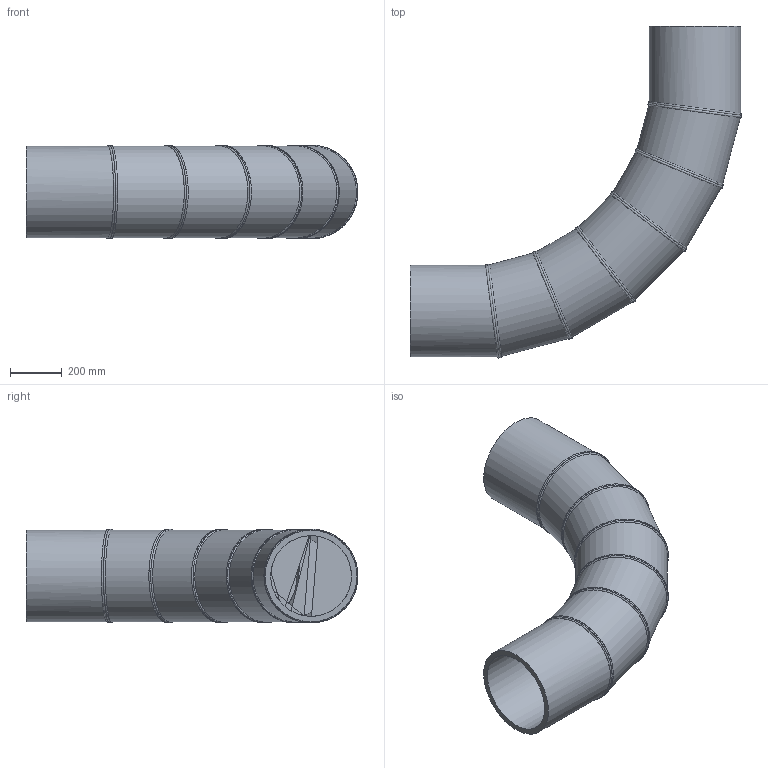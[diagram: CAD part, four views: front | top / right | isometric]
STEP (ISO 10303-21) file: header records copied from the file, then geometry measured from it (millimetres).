
FILE_DESCRIPTION(/* description */ ('Unknown'),/* implementation_level */ '2;1');
FILE_NAME(/* name */ 'Curva 90° a settore DE355 SDR17',/* time_stamp */ '2022-07-27T09:39:29+02:00',/* author */ ('Unknown'),/* organization */ ('Unknown'),/* preprocessor_version */ 'ST-DEVELOPER v18.102',/* originating_system */ 'Solid Edge',/* authorisation */ 'Unknown');
FILE_SCHEMA (('AUTOMOTIVE_DESIGN {1 0 10303 214 3 1 1}'));
Length unit declared in the file: millimetre
Products named in the file (3): Curva 90° a settore DE355 SDR17; Tubo x Gomito 90° DE355 SDR17 - 2; Tubo x Gomito 90° DE355 SDR17 - 1
Assembly tree (7 placements, depth 2):
  Curva 90° a settore DE355 SDR17
    Tubo x Gomito 90° DE355 SDR17 - 2  x5
    Tubo x Gomito 90° DE355 SDR17 - 1  x2
Bounding box: 1285.58 x 1285.58 x 362.99 mm (x, y, z)
Volume: 40855071.7 mm3; surface area: 4216083.7 mm2
Topology: 7 solids, 7 shells, 64 faces, 143 edges, 93 vertices
Faces by surface type: cylinder 38, plane 14, bspline 12
Full cylindrical faces by diameter (mm): 312.8 x7, 355 x7
Entity records: 2373 total; most frequent: CARTESIAN_POINT 1950, DIRECTION 78, ORIENTED_EDGE 52, AXIS2_PLACEMENT_3D 39, EDGE_LOOP 28, FACE_BOUND 28, EDGE_CURVE 26, VERTEX_POINT 20
